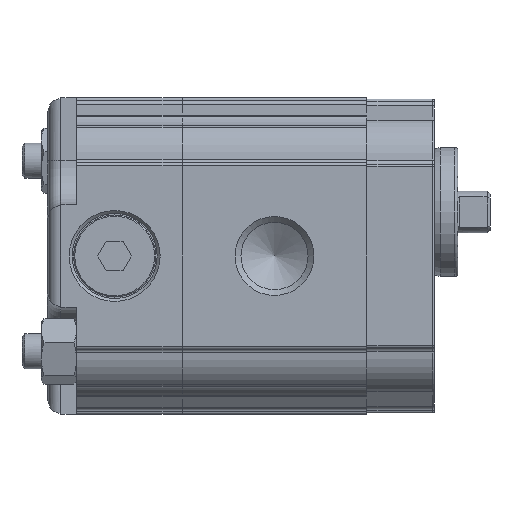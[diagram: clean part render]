
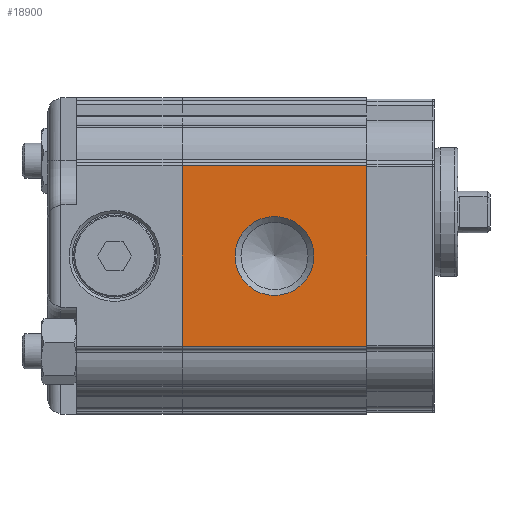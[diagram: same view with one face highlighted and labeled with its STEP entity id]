
A CAD part, left-side view. The second image highlights one B-rep face of the part: STEP entity #18900.
In plain terms, the highlighted planar face has unit normal (-1, 0, 0).
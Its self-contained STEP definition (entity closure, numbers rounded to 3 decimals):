
#1234=LINE('',#27752,#2253);
#1235=LINE('',#27756,#2254);
#1236=LINE('',#27758,#2255);
#1237=LINE('',#27760,#2256);
#2253=VECTOR('',#23065,1000.);
#2254=VECTOR('',#23070,1000.);
#2255=VECTOR('',#23071,1000.);
#2256=VECTOR('',#23072,1000.);
#4794=ORIENTED_EDGE('',*,*,#7641,.T.);
#4795=ORIENTED_EDGE('',*,*,#7642,.F.);
#4796=ORIENTED_EDGE('',*,*,#7640,.F.);
#4797=ORIENTED_EDGE('',*,*,#7643,.T.);
#4798=ORIENTED_EDGE('',*,*,#7644,.T.);
#7640=EDGE_CURVE('',#9209,#9208,#1234,.T.);
#7641=EDGE_CURVE('',#9210,#9210,#10214,.F.);
#7642=EDGE_CURVE('',#9208,#9211,#1235,.T.);
#7643=EDGE_CURVE('',#9209,#9212,#1236,.T.);
#7644=EDGE_CURVE('',#9212,#9211,#1237,.T.);
#9208=VERTEX_POINT('',#27749);
#9209=VERTEX_POINT('',#27751);
#9210=VERTEX_POINT('',#27755);
#9211=VERTEX_POINT('',#27757);
#9212=VERTEX_POINT('',#27759);
#10214=CIRCLE('',#20141,6.723);
#11048=EDGE_LOOP('',(#4794));
#11049=EDGE_LOOP('',(#4795,#4796,#4797,#4798));
#12046=FACE_BOUND('',#11048,.T.);
#12047=FACE_BOUND('',#11049,.T.);
#12716=PLANE('',#20140);
#18900=ADVANCED_FACE('',(#12046,#12047),#12716,.T.);
#20140=AXIS2_PLACEMENT_3D('',#27753,#23066,#23067);
#20141=AXIS2_PLACEMENT_3D('',#27754,#23068,#23069);
#23065=DIRECTION('',(0.,-1.,0.));
#23066=DIRECTION('',(-1.,0.,0.));
#23067=DIRECTION('',(0.,0.,1.));
#23068=DIRECTION('',(-1.,0.,0.));
#23069=DIRECTION('',(0.,0.,1.));
#23070=DIRECTION('',(0.,0.,-1.));
#23071=DIRECTION('',(0.,0.,-1.));
#23072=DIRECTION('',(0.,-1.,0.));
#27749=CARTESIAN_POINT('',(-25.,0.,15.418));
#27751=CARTESIAN_POINT('',(-25.,31.5,15.418));
#27752=CARTESIAN_POINT('',(-25.,31.5,15.418));
#27753=CARTESIAN_POINT('',(-25.,31.5,15.418));
#27754=CARTESIAN_POINT('',(-25.,15.75,0.));
#27755=CARTESIAN_POINT('',(-25.,15.75,6.723));
#27756=CARTESIAN_POINT('',(-25.,0.,15.418));
#27757=CARTESIAN_POINT('',(-25.,0.,-15.418));
#27758=CARTESIAN_POINT('',(-25.,31.5,15.418));
#27759=CARTESIAN_POINT('',(-25.,31.5,-15.418));
#27760=CARTESIAN_POINT('',(-25.,31.5,-15.418));
